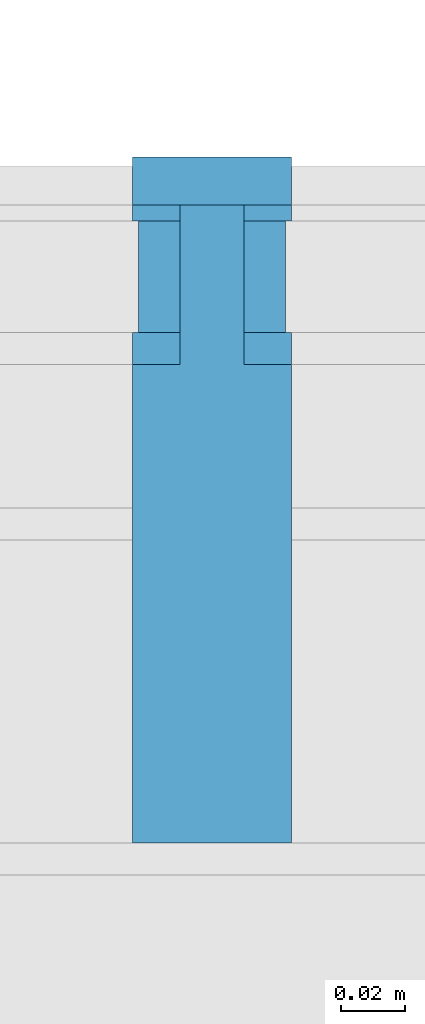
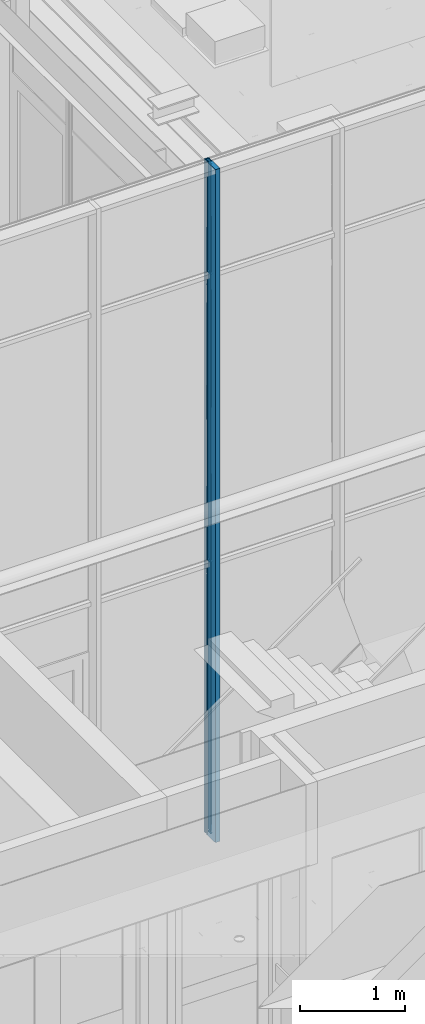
# One storey, part 101 of 347: 8 building element parts, 1 element without a shape of its own.
"""IFC2X3 building model written with IfcOpenShell, lengths in millimetres."""

import ifcopenshell
import ifcopenshell.guid

model = None  # the IFC model being written
_history = None  # IfcOwnerHistory: only IFC2X3 demands one
_inside = {}  # id of a spatial element -> (the spatial element, [elements in it])
_under = {}  # id of a project, library or spatial element -> (it, [spatial elements below it])
_declared = {}  # id of a project -> (the project, [libraries it declares])
_typed = {}  # id of a type object -> (the type object, [elements of that type])
_made_of = {}  # id of a material, layer set ... -> (it, [elements and type objects made of it])


def new_model(schema):
    """Start an empty IFC model of exactly this schema.

    Asked for "IFC4X3", IfcOpenShell would pick the latest addendum, in which some entities
    have other attributes; the version numbers below select the first issue.
    IFC2X3 requires an IfcOwnerHistory on every rooted entity: one is made here for all.
    """
    global model, _history
    if schema == "IFC4X3":
        model = ifcopenshell.file(schema_version=(4, 3, 0, 0))
    else:
        model = ifcopenshell.file(schema=schema)
    _inside.clear()
    _under.clear()
    _declared.clear()
    _typed.clear()
    _made_of.clear()
    _history = None
    if model.schema == "IFC2X3":
        org = make("IfcOrganization", Name="unknown")
        user = make(
            "IfcPersonAndOrganization",
            ThePerson=make("IfcPerson", FamilyName="unknown"),
            TheOrganization=org,
        )
        app = make(
            "IfcApplication",
            ApplicationDeveloper=org,
            Version="unknown",
            ApplicationFullName="unknown",
            ApplicationIdentifier="unknown",
        )
        _history = make(
            "IfcOwnerHistory",
            OwningUser=user,
            OwningApplication=app,
            ChangeAction="ADDED",
            CreationDate=0,
        )
    return model


def make(cls, **values):
    """One entity of the class cls with the attributes given. An attribute that is None is left unset."""
    return model.create_entity(
        cls, **{name: value for name, value in values.items() if value is not None}
    )


def entity(cls, *values):
    """Any entity or typed value of the class cls, its attributes in the order of the schema. None: left unset."""
    e = model.create_entity(cls)
    for i, value in enumerate(values):
        if value is not None:
            e[i] = value
    return e


def rooted(cls, **values):
    """An entity with a GlobalId (a new one), such as an element, a storey or a relation."""
    return make(cls, GlobalId=ifcopenshell.guid.new(), OwnerHistory=_history, **values)


def si_unit(unit_type, name, prefix=None):
    """IfcSIUnit, for example si_unit("LENGTHUNIT", "METRE", prefix="MILLI")."""
    return make("IfcSIUnit", UnitType=unit_type, Prefix=prefix, Name=name)


def converted_unit(unit_type, name, factor, base, dimensions=None, offset=None):
    """IfcConversionBasedUnit, such as the inch: factor (a typed value) times the base unit."""
    return make(
        "IfcConversionBasedUnit"
        if offset is None
        else "IfcConversionBasedUnitWithOffset",
        ConversionOffset=offset,
        Dimensions=None
        if dimensions is None
        else entity("IfcDimensionalExponents", *dimensions),
        UnitType=unit_type,
        Name=name,
        ConversionFactor=make(
            "IfcMeasureWithUnit", ValueComponent=factor, UnitComponent=base
        ),
    )


def derived_unit(unit_type, elements):
    """IfcDerivedUnit: a product of units, each with its exponent."""
    return make(
        "IfcDerivedUnit",
        Elements=[
            make("IfcDerivedUnitElement", Unit=unit, Exponent=power)
            for unit, power in elements
        ],
        UnitType=unit_type,
    )


def money_unit(currency):
    """IfcMonetaryUnit."""
    return make("IfcMonetaryUnit", Currency=currency)


def assignment(units):
    """IfcUnitAssignment: the units of a project."""
    return None if units is None else make("IfcUnitAssignment", Units=units)


def point(xyz):
    """IfcCartesianPoint."""
    return None if xyz is None else make("IfcCartesianPoint", Coordinates=xyz)


def direction(xyz):
    """IfcDirection."""
    return None if xyz is None else make("IfcDirection", DirectionRatios=xyz)


def frame(location, z_axis=None, x_axis=None):
    """IfcAxis2Placement3D, a coordinate frame: its origin and axes. An axis left out is left unset."""
    return make(
        "IfcAxis2Placement3D",
        Location=point(location),
        Axis=direction(z_axis),
        RefDirection=direction(x_axis),
    )


def origin_with_axes():
    """The frame at (0, 0, 0) with the z axis (0, 0, 1) and the x axis (1, 0, 0) written out."""
    return frame((0.0, 0.0, 0.0), z_axis=(0.0, 0.0, 1.0), x_axis=(1.0, 0.0, 0.0))


def place(relative_to, where):
    """IfcLocalPlacement: puts the frame where relative to a parent placement (None: the world)."""
    return make(
        "IfcLocalPlacement", PlacementRelTo=relative_to, RelativePlacement=where
    )


def context(
    kind, dimensions, precision=None, world=None, true_north=None, identifier=None
):
    """IfcGeometricRepresentationContext, for example the 3D "Model" context."""
    return make(
        "IfcGeometricRepresentationContext",
        ContextIdentifier=identifier,
        ContextType=kind,
        CoordinateSpaceDimension=dimensions,
        Precision=precision,
        WorldCoordinateSystem=world,
        TrueNorth=true_north,
    )


def subcontext(parent, identifier, kind, view, scale=None):
    """IfcGeometricRepresentationSubContext, for example "Body" below "Model"."""
    return make(
        "IfcGeometricRepresentationSubContext",
        ContextIdentifier=identifier,
        ContextType=kind,
        ParentContext=parent,
        TargetScale=scale,
        TargetView=view,
    )


def project(units=None, contexts=None):
    """IfcProject with its units and contexts."""
    return rooted(
        "IfcProject",
        Name="project",
        RepresentationContexts=contexts,
        UnitsInContext=assignment(units),
    )


def spatial(cls, under=None, at=None, **own):
    """A site, building, storey or space (cls), placed at a placement, below another one or the project."""
    s = rooted(cls, ObjectPlacement=at, **own)
    if under is not None:
        _under.setdefault(under.id(), (under, []))[1].append(s)
    return s


def faces_of(points, faces, orient=None, outer=None):
    """IfcFace entities. A face is a list of loops; a loop is a list of indices into points, from 0.

    orient and outer hold one flag for each loop. By default every Orientation is true, the
    first loop of a face is its IfcFaceOuterBound and the others are IfcFaceBound.
    """
    made = []
    for i, loops in enumerate(faces):
        bounds = []
        for j, loop in enumerate(loops):
            is_outer = j == 0 if outer is None else outer[i][j]
            bounds.append(
                make(
                    "IfcFaceOuterBound" if is_outer else "IfcFaceBound",
                    Bound=make("IfcPolyLoop", Polygon=[points[k] for k in loop]),
                    Orientation=True if orient is None else orient[i][j],
                )
            )
        made.append(make("IfcFace", Bounds=bounds))
    return made


def faceted_brep(points, faces, orient=None, outer=None, voids=None):
    """IfcFacetedBrep: a solid bounded by flat faces; with voids (closed shells), ...WithVoids."""
    shared = [point(p) for p in points]
    hull = make("IfcClosedShell", CfsFaces=faces_of(shared, faces, orient, outer))
    if voids is None:
        return make("IfcFacetedBrep", Outer=hull)
    return make(
        "IfcFacetedBrepWithVoids",
        Outer=hull,
        Voids=[
            make(cls, CfsFaces=faces_of(shared, fs, o, b)) for cls, fs, o, b in voids
        ],
    )


def shape(context_of_items, identifier, shape_type, items):
    """IfcShapeRepresentation: the items that make up one representation, for example the "Body"."""
    return make(
        "IfcShapeRepresentation",
        ContextOfItems=context_of_items,
        RepresentationIdentifier=identifier,
        RepresentationType=shape_type,
        Items=items,
    )


def material(Name=None, Category=None):
    """IfcMaterial."""
    return make("IfcMaterial", Name=Name, Category=Category)


def made_of(thing, what):
    """Note that an element or type object is made of a material, layer set ...; save() writes the relation."""
    if what is not None:
        _made_of.setdefault(what.id(), (what, []))[1].append(thing)
    return thing


def type_object(cls, material=None, **own):
    """A type object (cls), such as IfcWallType, which elements share."""
    return made_of(rooted(cls, **own), material)


def element(
    cls,
    number,
    at=None,
    inside=None,
    cuts=None,
    type_object=None,
    material=None,
    context=None,
    identifier="Body",
    shape_type=None,
    held_by="IfcProductDefinitionShape",
    body=None,
    shapes=None,
    **own,
):
    """One element of the class cls, such as IfcWall. Its Tag is "e" and its number.

    at: its placement. inside: the storey or other place that contains it. cuts: it is an
    opening in that element (IfcRelVoidsElement). A single representation is given by context,
    identifier, shape_type and body (its items); several are given by shapes. held_by: the class
    of the entity that holds the representations. save() writes the other relations.
    """
    e = rooted(cls, Tag="e%d" % number, ObjectPlacement=at, **own)
    if body is not None:
        shapes = [shape(context, identifier, shape_type, body)]
    if shapes is not None:
        e.Representation = make(held_by, Representations=shapes)
    if inside is not None:
        _inside.setdefault(inside.id(), (inside, []))[1].append(e)
    if cuts is not None:
        rooted(
            "IfcRelVoidsElement", RelatingBuildingElement=cuts, RelatedOpeningElement=e
        )
    if type_object is not None:
        _typed.setdefault(type_object.id(), (type_object, []))[1].append(e)
    return made_of(e, material)


def aggregate(whole, parts):
    """IfcRelAggregates: a whole, such as a stair, and the parts it consists of."""
    return rooted("IfcRelAggregates", RelatingObject=whole, RelatedObjects=parts)


def save(model, path):
    """Write the relations noted so far, then the file.

    IfcRelAggregates (storeys below a building ...), IfcRelContainedInSpatialStructure (elements
    in a storey), IfcRelDefinesByType, IfcRelAssociatesMaterial and IfcRelDeclares: one each for
    every whole, place, type object, material and project.
    """
    for whole, parts in _under.values():
        aggregate(whole, parts)
    for where, things in _inside.values():
        rooted(
            "IfcRelContainedInSpatialStructure",
            RelatedElements=things,
            RelatingStructure=where,
        )
    for kind, things in _typed.values():
        rooted("IfcRelDefinesByType", RelatedObjects=things, RelatingType=kind)
    for what, things in _made_of.values():
        rooted("IfcRelAssociatesMaterial", RelatedObjects=things, RelatingMaterial=what)
    for by, libraries in _declared.values():
        rooted("IfcRelDeclares", RelatingContext=by, RelatedDefinitions=libraries)
    model.write(path)


model = new_model("IFC2X3")

# Units and contexts
model_context = context("Model", 3, precision=0.01, world=origin_with_axes(), true_north=direction((0.0, 1.0)))
plan_context = context("Plan", 3, precision=0.01, world=origin_with_axes(), true_north=direction((0.0, 1.0)))
body_context = subcontext(model_context, "Body", "Model", "MODEL_VIEW")
ifc_project = project(units=[si_unit("LENGTHUNIT", "METRE", prefix="MILLI"), si_unit("AREAUNIT", "SQUARE_METRE"), si_unit("VOLUMEUNIT", "CUBIC_METRE"), converted_unit("PLANEANGLEUNIT", "DEGREE", entity("IfcPlaneAngleMeasure", 0.0174532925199), si_unit("PLANEANGLEUNIT", "RADIAN"), dimensions=[0, 0, 0, 0, 0, 0, 0]), money_unit("EUR"), converted_unit("TIMEUNIT", "Year", entity("IfcTimeMeasure", 31556926.0), si_unit("TIMEUNIT", "SECOND"), dimensions=[0, 0, 1, 0, 0, 0, 0]), si_unit("MASSUNIT", "GRAM", prefix="KILO"), si_unit("THERMODYNAMICTEMPERATUREUNIT", "DEGREE_CELSIUS"), si_unit("LUMINOUSINTENSITYUNIT", "LUMEN"), si_unit("ENERGYUNIT", "JOULE", prefix="MEGA"), derived_unit("THERMALCONDUCTANCEUNIT", [(si_unit("POWERUNIT", "WATT"), 1), (si_unit("LENGTHUNIT", "METRE"), -1), (si_unit("THERMODYNAMICTEMPERATUREUNIT", "KELVIN"), -1)]), derived_unit("SPECIFICHEATCAPACITYUNIT", [(si_unit("ENERGYUNIT", "JOULE"), 1), (si_unit("MASSUNIT", "GRAM", prefix="KILO"), -1), (si_unit("THERMODYNAMICTEMPERATUREUNIT", "KELVIN"), -1)]), derived_unit("MASSDENSITYUNIT", [(si_unit("MASSUNIT", "GRAM", prefix="KILO"), 1), (si_unit("VOLUMEUNIT", "CUBIC_METRE"), -1)])], contexts=[model_context, plan_context])

# Site, building, storey
site_placement = place(None, origin_with_axes())
site = spatial("IfcSite", under=ifc_project, at=site_placement, Name="Site", CompositionType="ELEMENT")
building_placement = place(site_placement, origin_with_axes())
building = spatial("IfcBuilding", under=site, at=building_placement, Name="Naam gebouw", CompositionType="ELEMENT")
storey_placement = place(building_placement, origin_with_axes())
storey = spatial("IfcBuildingStorey", under=building, at=storey_placement, Name="begane grond", CompositionType="ELEMENT", Elevation=0.0)

# Column, building element parts
column_type = type_object("IfcColumnType", Name="31 vliesgevelstijl 50 x 215", PredefinedType="COLUMN")
column_placement = place(storey_placement, frame((21200.0, 18399.9999993, 0.0), z_axis=(0.0, 0.0, 1.0), x_axis=(1.0, 0.0, 0.0)))
column = element("IfcColumn", 1, at=column_placement, inside=storey, type_object=column_type, Name="28_kolom ø 275mm", ObjectType="COLUMN")
ifc_material_1 = material(Name="Membraan - rubber")
building_element_part_1_placement = place(column_placement, origin_with_axes())
building_element_part_1 = element("IfcBuildingElementPart", 2, at=building_element_part_1_placement, material=ifc_material_1, Name="Membraan - rubber", context=body_context, shape_type="Brep", body=[
    faceted_brep([(25.0000002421, 150.000000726, 7840.0), (25.0000002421, 150.000002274, 7824.99999994), (25.0000002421, 160.000000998, 7824.99999994), (25.0000002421, 160.000000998, 7840.0), (10.0000001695, 150.000000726, 7840.0), (10.0000001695, 150.000002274, 7824.99999994), (10.0000001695, 160.000000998, 7824.99999994), (23.000000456, 160.000000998, 7824.99999994), (23.000000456, 160.000000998, 7840.0), (10.0000001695, 160.000000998, 7840.0)], [[[0, 1, 2, 3]], [[4, 5, 1, 0]], [[6, 7, 2, 1, 5]], [[3, 2, 7, 8]], [[3, 8, 9, 4, 0]], [[9, 6, 5, 4]], [[8, 7, 6, 9]]]),
    faceted_brep([(23.000000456, 160.000000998, 14.9999997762), (25.0000002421, 160.000000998, 14.9999997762), (25.0000002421, 160.000000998, 0.0), (23.000000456, 160.000000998, 0.0), (25.0000002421, 150.000001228, 14.9999997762), (10.0000001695, 160.000000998, 14.9999997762), (10.0000001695, 150.000001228, 14.9999997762), (25.0000002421, 150.000000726, 0.0), (10.0000001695, 150.000000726, 0.0), (10.0000001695, 160.000000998, 0.0)], [[[0, 1, 2, 3]], [[4, 1, 0, 5, 6]], [[1, 4, 7, 2]], [[8, 9, 3, 2, 7]], [[5, 0, 3, 9]], [[6, 5, 9, 8]], [[4, 6, 8, 7]]]),
    faceted_brep([(23.000000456, 160.000000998, 3165.00000048), (25.0000002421, 160.000000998, 3165.00000048), (25.0000002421, 160.000000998, 35.0000005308), (23.000000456, 160.000000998, 35.0000005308), (25.0000002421, 150.00000056, 3165.00000048), (10.0000001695, 160.000000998, 3165.00000048), (10.0000001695, 150.00000056, 3165.00000048), (25.0000002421, 150.000001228, 35.0000005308), (10.0000001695, 150.000001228, 35.0000005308), (10.0000001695, 160.000000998, 35.0000005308)], [[[0, 1, 2, 3]], [[4, 1, 0, 5, 6]], [[1, 4, 7, 2]], [[3, 2, 7, 8, 9]], [[5, 0, 3, 9]], [[6, 5, 9, 8]], [[4, 6, 8, 7]]]),
    faceted_brep([(25.0000002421, 150.00000056, 6545.00000058), (25.0000002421, 160.000000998, 6545.00000058), (25.0000002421, 160.000000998, 7804.99999952), (25.0000002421, 150.000002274, 7804.99999952), (23.000000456, 160.000000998, 6545.00000058), (10.0000001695, 150.00000056, 6545.00000058), (10.0000001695, 160.000000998, 6545.00000058), (23.000000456, 160.000000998, 7804.99999952), (10.0000001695, 160.000000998, 7804.99999952), (10.0000001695, 150.000002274, 7804.99999952)], [[[0, 1, 2, 3]], [[4, 1, 0, 5, 6]], [[1, 4, 7, 2]], [[3, 2, 7, 8, 9]], [[5, 0, 3, 9]], [[6, 5, 9, 8]], [[4, 6, 8, 7]]]),
    faceted_brep([(25.0000002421, 150.00000056, 3185.00000058), (25.0000002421, 160.000000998, 3185.00000058), (25.0000002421, 160.000000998, 6525.00000048), (25.0000002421, 150.00000056, 6525.00000048), (23.000000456, 160.000000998, 3185.00000058), (10.0000001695, 150.00000056, 3185.00000058), (10.0000001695, 160.000000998, 3185.00000058), (23.000000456, 160.000000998, 6525.00000048), (10.0000001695, 160.000000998, 6525.00000048), (10.0000001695, 150.00000056, 6525.00000048)], [[[0, 1, 2, 3]], [[4, 1, 0, 5, 6]], [[1, 4, 7, 2]], [[3, 2, 7, 8, 9]], [[5, 0, 3, 9]], [[6, 5, 9, 8]], [[4, 6, 8, 7]]]),
])
building_element_part_2_placement = place(column_placement, origin_with_axes())
building_element_part_2 = element("IfcBuildingElementPart", 3, at=building_element_part_2_placement, material=ifc_material_1, Name="Membraan - rubber", context=body_context, shape_type="Brep", body=[
    faceted_brep([(-9.99999992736, 150.000000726, 7840.0), (-9.99999992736, 150.000002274, 7824.99999994), (-9.99999992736, 160.000000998, 7824.99999994), (-9.99999992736, 160.000000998, 7840.0), (-25.0, 150.000000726, 7840.0), (-25.0, 150.000002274, 7824.99999994), (-25.0, 160.000000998, 7824.99999994), (-23.0000002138, 160.000000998, 7824.99999994), (-23.0000002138, 160.000000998, 7840.0), (-25.0, 160.000000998, 7840.0)], [[[0, 1, 2, 3]], [[4, 5, 1, 0]], [[6, 7, 2, 1, 5]], [[3, 2, 7, 8]], [[3, 8, 9, 4, 0]], [[9, 6, 5, 4]], [[8, 7, 6, 9]]]),
    faceted_brep([(-23.0000002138, 160.000000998, 14.9999997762), (-9.99999992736, 160.000000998, 14.9999997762), (-9.99999992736, 160.000000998, 0.0), (-23.0000002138, 160.000000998, 0.0), (-9.99999992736, 150.000001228, 14.9999997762), (-25.0, 160.000000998, 14.9999997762), (-25.0, 150.000001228, 14.9999997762), (-9.99999992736, 150.000000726, 0.0), (-25.0, 150.000000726, 0.0), (-25.0, 160.000000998, 0.0)], [[[0, 1, 2, 3]], [[4, 1, 0, 5, 6]], [[1, 4, 7, 2]], [[8, 9, 3, 2, 7]], [[5, 0, 3, 9]], [[6, 5, 9, 8]], [[4, 6, 8, 7]]]),
    faceted_brep([(-23.0000002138, 160.000000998, 3165.00000048), (-9.99999992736, 160.000000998, 3165.00000048), (-9.99999992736, 160.000000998, 35.0000005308), (-23.0000002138, 160.000000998, 35.0000005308), (-9.99999992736, 150.00000056, 3165.00000048), (-25.0, 160.000000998, 3165.00000048), (-25.0, 150.00000056, 3165.00000048), (-9.99999992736, 150.000001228, 35.0000005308), (-25.0, 150.000001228, 35.0000005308), (-25.0, 160.000000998, 35.0000005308)], [[[0, 1, 2, 3]], [[4, 1, 0, 5, 6]], [[1, 4, 7, 2]], [[3, 2, 7, 8, 9]], [[5, 0, 3, 9]], [[6, 5, 9, 8]], [[4, 6, 8, 7]]]),
    faceted_brep([(-9.99999992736, 150.00000056, 6545.00000058), (-9.99999992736, 160.000000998, 6545.00000058), (-9.99999992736, 160.000000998, 7804.99999952), (-9.99999992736, 150.000002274, 7804.99999952), (-23.0000002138, 160.000000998, 6545.00000058), (-25.0, 150.00000056, 6545.00000058), (-25.0, 160.000000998, 6545.00000058), (-23.0000002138, 160.000000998, 7804.99999952), (-25.0, 160.000000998, 7804.99999952), (-25.0, 150.000002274, 7804.99999952)], [[[0, 1, 2, 3]], [[4, 1, 0, 5, 6]], [[1, 4, 7, 2]], [[3, 2, 7, 8, 9]], [[5, 0, 3, 9]], [[6, 5, 9, 8]], [[4, 6, 8, 7]]]),
    faceted_brep([(-9.99999992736, 150.00000056, 3185.00000058), (-9.99999992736, 160.000000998, 3185.00000058), (-9.99999992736, 160.000000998, 6525.00000048), (-9.99999992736, 150.00000056, 6525.00000048), (-23.0000002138, 160.000000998, 3185.00000058), (-25.0, 150.00000056, 3185.00000058), (-25.0, 160.000000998, 3185.00000058), (-23.0000002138, 160.000000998, 6525.00000048), (-25.0, 160.000000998, 6525.00000048), (-25.0, 150.00000056, 6525.00000048)], [[[0, 1, 2, 3]], [[4, 1, 0, 5, 6]], [[1, 4, 7, 2]], [[3, 2, 7, 8, 9]], [[5, 0, 3, 9]], [[6, 5, 9, 8]], [[4, 6, 8, 7]]]),
])
building_element_part_3_placement = place(column_placement, origin_with_axes())
building_element_part_3 = element("IfcBuildingElementPart", 4, at=building_element_part_3_placement, material=ifc_material_1, Name="Membraan - rubber", context=body_context, shape_type="Brep", body=[
    faceted_brep([(-9.99999992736, 195.000000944, 7840.0), (-9.99999992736, 195.000000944, 7824.99999994), (-9.99999992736, 200.000001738, 7824.99999994), (-9.99999992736, 200.000000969, 7840.0), (-22.9999999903, 195.000000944, 7840.0), (-22.9999999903, 195.000000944, 7824.99999994), (-25.0, 195.000000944, 7824.99999994), (-25.0, 200.000001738, 7824.99999994), (-25.0, 200.000000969, 7840.0), (-25.0, 195.000000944, 7840.0)], [[[0, 1, 2, 3]], [[4, 5, 1, 0]], [[6, 7, 2, 1, 5]], [[3, 2, 7, 8]], [[3, 8, 9, 4, 0]], [[9, 6, 5, 4]], [[8, 7, 6, 9]]]),
    faceted_brep([(-25.0, 200.000001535, 14.9999997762), (-9.99999992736, 200.000001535, 14.9999997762), (-9.99999992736, 200.000000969, 0.0), (-25.0, 200.000000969, 0.0), (-9.99999992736, 195.000000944, 14.9999997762), (-25.0, 195.000000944, 14.9999997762), (-22.9999999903, 195.000000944, 14.9999997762), (-9.99999992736, 195.000000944, 0.0), (-22.9999999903, 195.000000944, 0.0), (-25.0, 195.000000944, 0.0)], [[[0, 1, 2, 3]], [[4, 1, 0, 5, 6]], [[1, 4, 7, 2]], [[8, 9, 3, 2, 7]], [[5, 0, 3, 9]], [[6, 5, 9, 8]], [[4, 6, 8, 7]]]),
    faceted_brep([(-25.0, 200.000000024, 3165.00000048), (-9.99999992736, 200.000000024, 3165.00000048), (-9.99999992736, 200.000001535, 35.0000005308), (-25.0, 200.000001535, 35.0000005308), (-9.99999992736, 195.000000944, 3165.00000048), (-25.0, 195.000000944, 3165.00000048), (-22.9999999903, 195.000000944, 3165.00000048), (-9.99999992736, 195.000000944, 35.0000005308), (-22.9999999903, 195.000000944, 35.0000005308), (-25.0, 195.000000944, 35.0000005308)], [[[0, 1, 2, 3]], [[4, 1, 0, 5, 6]], [[1, 4, 7, 2]], [[3, 2, 7, 8, 9]], [[5, 0, 3, 9]], [[6, 5, 9, 8]], [[4, 6, 8, 7]]]),
    faceted_brep([(-9.99999992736, 195.000000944, 6545.00000058), (-9.99999992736, 200.000000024, 6545.00000058), (-9.99999992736, 200.000001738, 7804.99999952), (-9.99999992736, 195.000000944, 7804.99999952), (-25.0, 200.000000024, 6545.00000058), (-22.9999999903, 195.000000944, 6545.00000058), (-25.0, 195.000000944, 6545.00000058), (-25.0, 200.000001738, 7804.99999952), (-25.0, 195.000000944, 7804.99999952), (-22.9999999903, 195.000000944, 7804.99999952)], [[[0, 1, 2, 3]], [[4, 1, 0, 5, 6]], [[1, 4, 7, 2]], [[3, 2, 7, 8, 9]], [[5, 0, 3, 9]], [[6, 5, 9, 8]], [[4, 6, 8, 7]]]),
    faceted_brep([(-9.99999992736, 195.000000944, 3185.00000058), (-9.99999992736, 200.000000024, 3185.00000058), (-9.99999992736, 200.000000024, 6525.00000048), (-9.99999992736, 195.000000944, 6525.00000048), (-25.0, 200.000000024, 3185.00000058), (-22.9999999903, 195.000000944, 3185.00000058), (-25.0, 195.000000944, 3185.00000058), (-25.0, 200.000000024, 6525.00000048), (-25.0, 195.000000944, 6525.00000048), (-22.9999999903, 195.000000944, 6525.00000048)], [[[0, 1, 2, 3]], [[4, 1, 0, 5, 6]], [[1, 4, 7, 2]], [[3, 2, 7, 8, 9]], [[5, 0, 3, 9]], [[6, 5, 9, 8]], [[4, 6, 8, 7]]]),
])
building_element_part_4_placement = place(column_placement, origin_with_axes())
building_element_part_4 = element("IfcBuildingElementPart", 5, at=building_element_part_4_placement, material=ifc_material_1, Name="Membraan - rubber", context=body_context, shape_type="Brep", body=[
    faceted_brep([(25.0000002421, 195.000000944, 7840.0), (25.0000002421, 195.000000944, 7824.99999994), (25.0000002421, 200.000001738, 7824.99999994), (25.0000002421, 200.000000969, 7840.0), (23.0000002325, 195.000000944, 7840.0), (23.0000002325, 195.000000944, 7824.99999994), (10.0000001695, 195.000000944, 7824.99999994), (10.0000001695, 200.000001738, 7824.99999994), (10.0000001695, 200.000000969, 7840.0), (10.0000001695, 195.000000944, 7840.0)], [[[0, 1, 2, 3]], [[4, 5, 1, 0]], [[6, 7, 2, 1, 5]], [[3, 2, 7, 8]], [[0, 3, 8, 9, 4]], [[9, 6, 5, 4]], [[8, 7, 6, 9]]]),
    faceted_brep([(10.0000001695, 200.000001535, 14.9999997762), (25.0000002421, 200.000001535, 14.9999997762), (25.0000002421, 200.000000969, 0.0), (10.0000001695, 200.000000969, 0.0), (25.0000002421, 195.000000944, 14.9999997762), (10.0000001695, 195.000000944, 14.9999997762), (23.0000002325, 195.000000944, 14.9999997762), (25.0000002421, 195.000000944, 0.0), (10.0000001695, 195.000000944, 0.0), (23.0000002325, 195.000000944, 0.0)], [[[0, 1, 2, 3]], [[4, 1, 0, 5, 6]], [[1, 4, 7, 2]], [[8, 3, 2, 7, 9]], [[5, 0, 3, 8]], [[6, 5, 8, 9]], [[4, 6, 9, 7]]]),
    faceted_brep([(10.0000001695, 200.000000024, 3165.00000048), (25.0000002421, 200.000000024, 3165.00000048), (25.0000002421, 200.000001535, 35.0000005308), (10.0000001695, 200.000001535, 35.0000005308), (25.0000002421, 195.000000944, 3165.00000048), (10.0000001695, 195.000000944, 3165.00000048), (23.0000002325, 195.000000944, 3165.00000048), (25.0000002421, 195.000000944, 35.0000005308), (23.0000002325, 195.000000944, 35.0000005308), (10.0000001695, 195.000000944, 35.0000005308)], [[[0, 1, 2, 3]], [[4, 1, 0, 5, 6]], [[1, 4, 7, 2]], [[3, 2, 7, 8, 9]], [[5, 0, 3, 9]], [[6, 5, 9, 8]], [[4, 6, 8, 7]]]),
    faceted_brep([(25.0000002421, 195.000000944, 6545.00000058), (25.0000002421, 200.000000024, 6545.00000058), (25.0000002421, 200.000001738, 7804.99999952), (25.0000002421, 195.000000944, 7804.99999952), (10.0000001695, 200.000000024, 6545.00000058), (23.0000002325, 195.000000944, 6545.00000058), (10.0000001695, 195.000000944, 6545.00000058), (10.0000001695, 200.000001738, 7804.99999952), (10.0000001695, 195.000000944, 7804.99999952), (23.0000002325, 195.000000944, 7804.99999952)], [[[0, 1, 2, 3]], [[4, 1, 0, 5, 6]], [[1, 4, 7, 2]], [[3, 2, 7, 8, 9]], [[5, 0, 3, 9]], [[6, 5, 9, 8]], [[4, 6, 8, 7]]]),
    faceted_brep([(25.0000002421, 195.000000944, 3185.00000058), (25.0000002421, 200.000000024, 3185.00000058), (25.0000002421, 200.000000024, 6525.00000048), (25.0000002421, 195.000000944, 6525.00000048), (10.0000001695, 200.000000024, 3185.00000058), (23.0000002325, 195.000000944, 3185.00000058), (10.0000001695, 195.000000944, 3185.00000058), (10.0000001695, 200.000000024, 6525.00000048), (10.0000001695, 195.000000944, 6525.00000048), (23.0000002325, 195.000000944, 6525.00000048)], [[[0, 1, 2, 3]], [[4, 1, 0, 5, 6]], [[1, 4, 7, 2]], [[3, 2, 7, 8, 9]], [[5, 0, 3, 9]], [[6, 5, 9, 8]], [[4, 6, 8, 7]]]),
])
building_element_part_5_placement = place(column_placement, origin_with_axes())
building_element_part_5 = element("IfcBuildingElementPart", 6, at=building_element_part_5_placement, material=ifc_material_1, Name="Membraan - rubber", context=body_context, shape_type="Brep", body=[
    faceted_brep([(23.0000002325, 160.000000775, 7840.0), (23.0000002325, 160.000000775, 7824.99999994), (23.0000002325, 195.000000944, 7824.99999994), (23.0000002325, 195.000000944, 7840.0), (10.0000001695, 160.000000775, 7840.0), (10.0000001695, 160.000000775, 7824.99999994), (10.0000001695, 195.000000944, 7824.99999994), (10.0000001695, 195.000000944, 7840.0)], [[[0, 1, 2, 3]], [[4, 5, 1, 0]], [[5, 6, 2, 1]], [[3, 2, 6, 7]], [[0, 3, 7, 4]], [[7, 6, 5, 4]]]),
    faceted_brep([(10.0000001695, 195.000000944, 14.9999997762), (23.0000002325, 195.000000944, 14.9999997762), (23.0000002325, 195.000000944, 0.0), (10.0000001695, 195.000000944, 0.0), (23.0000002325, 160.000000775, 14.9999997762), (10.0000001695, 160.000000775, 14.9999997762), (23.0000002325, 160.000000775, 0.0), (10.0000001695, 160.000000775, 0.0)], [[[0, 1, 2, 3]], [[4, 1, 0, 5]], [[1, 4, 6, 2]], [[7, 3, 2, 6]], [[5, 0, 3, 7]], [[4, 5, 7, 6]]]),
    faceted_brep([(10.0000001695, 195.000000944, 3165.00000048), (23.0000002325, 195.000000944, 3165.00000048), (23.0000002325, 195.000000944, 35.0000005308), (10.0000001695, 195.000000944, 35.0000005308), (23.0000002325, 160.000000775, 3165.00000048), (10.0000001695, 160.000000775, 3165.00000048), (23.0000002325, 160.000000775, 35.0000005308), (10.0000001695, 160.000000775, 35.0000005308)], [[[0, 1, 2, 3]], [[4, 1, 0, 5]], [[1, 4, 6, 2]], [[3, 2, 6, 7]], [[5, 0, 3, 7]], [[4, 5, 7, 6]]]),
    faceted_brep([(23.0000002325, 160.000000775, 6545.00000058), (23.0000002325, 195.000000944, 6545.00000058), (23.0000002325, 195.000000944, 7804.99999952), (23.0000002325, 160.000000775, 7804.99999952), (10.0000001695, 195.000000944, 6545.00000058), (10.0000001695, 160.000000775, 6545.00000058), (10.0000001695, 195.000000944, 7804.99999952), (10.0000001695, 160.000000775, 7804.99999952)], [[[0, 1, 2, 3]], [[4, 1, 0, 5]], [[1, 4, 6, 2]], [[3, 2, 6, 7]], [[5, 0, 3, 7]], [[4, 5, 7, 6]]]),
    faceted_brep([(23.0000002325, 160.000000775, 3185.00000058), (23.0000002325, 195.000000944, 3185.00000058), (23.0000002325, 195.000000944, 6525.00000048), (23.0000002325, 160.000000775, 6525.00000048), (10.0000001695, 195.000000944, 3185.00000058), (10.0000001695, 160.000000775, 3185.00000058), (10.0000001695, 195.000000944, 6525.00000048), (10.0000001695, 160.000000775, 6525.00000048)], [[[0, 1, 2, 3]], [[4, 1, 0, 5]], [[1, 4, 6, 2]], [[3, 2, 6, 7]], [[5, 0, 3, 7]], [[4, 5, 7, 6]]]),
])
building_element_part_6_placement = place(column_placement, origin_with_axes())
building_element_part_6 = element("IfcBuildingElementPart", 7, at=building_element_part_6_placement, material=ifc_material_1, Name="Membraan - rubber", context=body_context, shape_type="Brep", body=[
    faceted_brep([(-9.99999992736, 160.000000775, 7840.0), (-9.99999992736, 160.000000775, 7824.99999994), (-9.99999992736, 195.000000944, 7824.99999994), (-9.99999992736, 195.000000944, 7840.0), (-22.9999999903, 160.000000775, 7840.0), (-22.9999999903, 160.000000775, 7824.99999994), (-22.9999999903, 195.000000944, 7824.99999994), (-22.9999999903, 195.000000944, 7840.0)], [[[0, 1, 2, 3]], [[4, 5, 1, 0]], [[5, 6, 2, 1]], [[3, 2, 6, 7]], [[0, 3, 7, 4]], [[7, 6, 5, 4]]]),
    faceted_brep([(-22.9999999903, 195.000000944, 14.9999997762), (-9.99999992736, 195.000000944, 14.9999997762), (-9.99999992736, 195.000000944, 0.0), (-22.9999999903, 195.000000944, 0.0), (-9.99999992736, 160.000000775, 14.9999997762), (-22.9999999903, 160.000000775, 14.9999997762), (-9.99999992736, 160.000000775, 0.0), (-22.9999999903, 160.000000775, 0.0)], [[[0, 1, 2, 3]], [[4, 1, 0, 5]], [[1, 4, 6, 2]], [[7, 3, 2, 6]], [[5, 0, 3, 7]], [[4, 5, 7, 6]]]),
    faceted_brep([(-22.9999999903, 195.000000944, 3165.00000048), (-9.99999992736, 195.000000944, 3165.00000048), (-9.99999992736, 195.000000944, 35.0000005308), (-22.9999999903, 195.000000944, 35.0000005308), (-9.99999992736, 160.000000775, 3165.00000048), (-22.9999999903, 160.000000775, 3165.00000048), (-9.99999992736, 160.000000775, 35.0000005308), (-22.9999999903, 160.000000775, 35.0000005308)], [[[0, 1, 2, 3]], [[4, 1, 0, 5]], [[1, 4, 6, 2]], [[3, 2, 6, 7]], [[5, 0, 3, 7]], [[4, 5, 7, 6]]]),
    faceted_brep([(-9.99999992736, 160.000000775, 6545.00000058), (-9.99999992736, 195.000000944, 6545.00000058), (-9.99999992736, 195.000000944, 7804.99999952), (-9.99999992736, 160.000000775, 7804.99999952), (-22.9999999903, 195.000000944, 6545.00000058), (-22.9999999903, 160.000000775, 6545.00000058), (-22.9999999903, 195.000000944, 7804.99999952), (-22.9999999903, 160.000000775, 7804.99999952)], [[[0, 1, 2, 3]], [[4, 1, 0, 5]], [[1, 4, 6, 2]], [[3, 2, 6, 7]], [[5, 0, 3, 7]], [[4, 5, 7, 6]]]),
    faceted_brep([(-9.99999992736, 160.000000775, 3185.00000058), (-9.99999992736, 195.000000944, 3185.00000058), (-9.99999992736, 195.000000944, 6525.00000048), (-9.99999992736, 160.000000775, 6525.00000048), (-22.9999999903, 195.000000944, 3185.00000058), (-22.9999999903, 160.000000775, 3185.00000058), (-22.9999999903, 195.000000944, 6525.00000048), (-22.9999999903, 160.000000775, 6525.00000048)], [[[0, 1, 2, 3]], [[4, 1, 0, 5]], [[1, 4, 6, 2]], [[3, 2, 6, 7]], [[5, 0, 3, 7]], [[4, 5, 7, 6]]]),
])
ifc_material_2 = material(Name="Metaal - Aluminium")
building_element_part_7_placement = place(column_placement, origin_with_axes())
building_element_part_7 = element("IfcBuildingElementPart", 8, at=building_element_part_7_placement, material=ifc_material_2, Name="Metaal - Aluminium", context=body_context, shape_type="Brep", body=[
    faceted_brep([(25.0000010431, 0.0, 7840.0), (-25.0, 0.0, 7840.0), (-25.0, 0.0, 0.0), (25.0000010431, 0.0, 0.0), (-10.0000009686, 149.999999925, 7840.0), (-25.0, 149.999999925, 7840.0), (25.0000010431, 149.999999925, 7840.0), (9.99999880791, 149.999999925, 7840.0), (9.99999880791, 200.000000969, 7840.0), (-10.0000009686, 200.000000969, 7840.0), (-25.0, 149.999999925, 0.0), (25.0000010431, 149.999999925, 0.0), (-10.0000009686, 149.999999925, 0.0), (-10.0000009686, 200.000000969, 0.0), (9.99999880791, 200.000000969, 0.0), (9.99999880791, 149.999999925, 0.0)], [[[0, 1, 2, 3]], [[4, 5, 1, 0, 6, 7, 8, 9]], [[1, 5, 10, 2]], [[11, 3, 2, 10, 12, 13, 14, 15]], [[6, 0, 3, 11]], [[5, 4, 12, 10]], [[7, 6, 11, 15]], [[8, 7, 15, 14]], [[9, 8, 14, 13]], [[4, 9, 13, 12]]]),
])
building_element_part_8_placement = place(column_placement, origin_with_axes())
building_element_part_8 = element("IfcBuildingElementPart", 9, at=building_element_part_8_placement, material=ifc_material_2, Name="Metaal - Aluminium", context=body_context, shape_type="Brep", body=[
    faceted_brep([(-25.0, 215.0, 7840.0), (-25.0, 215.0, 0.0), (-25.0, 200.0, 0.0), (-25.0, 200.0, 7840.0), (25.0, 215.0, 7840.0), (25.0, 215.0, 0.0), (25.0, 200.0, 0.0), (25.0, 200.0, 7840.0)], [[[0, 1, 2, 3]], [[4, 5, 1, 0]], [[2, 1, 5, 6]], [[3, 2, 6, 7]], [[4, 0, 3, 7]], [[7, 6, 5, 4]]]),
])
aggregate(column, [building_element_part_1, building_element_part_2, building_element_part_3, building_element_part_4, building_element_part_5, building_element_part_6, building_element_part_7, building_element_part_8])

save(model, "model.ifc")
